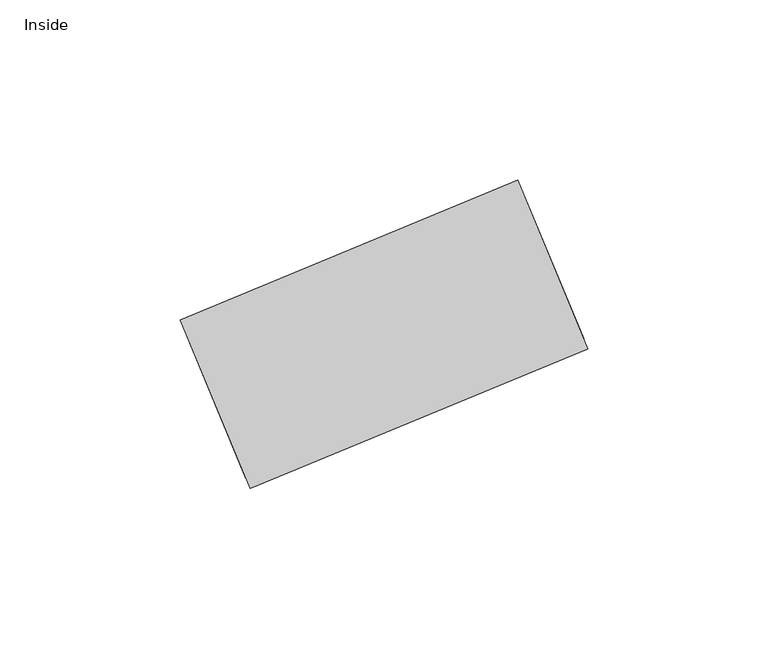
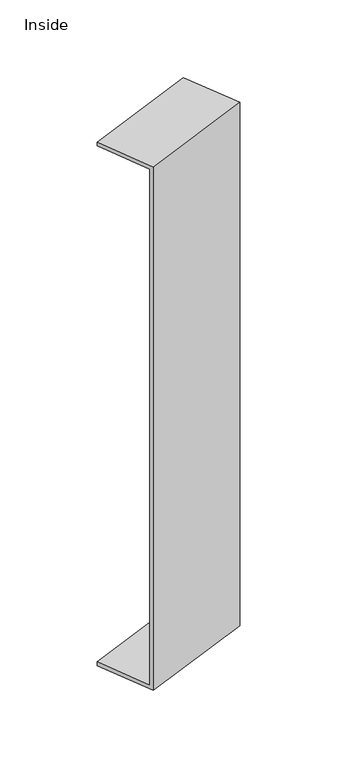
"""IFC4 building model written with IfcOpenShell, lengths in millimetres: cable carrier fitting geometry, Bend-Vertical-Cablofil-Wire_Mesh_Cable_Tray-Cablobend : Inside."""

import ifcopenshell
import ifcopenshell.guid

model = None  # the IFC model being written
_history = None  # IfcOwnerHistory: only IFC2X3 demands one
_inside = {}  # id of a spatial element -> (the spatial element, [elements in it])
_under = {}  # id of a project, library or spatial element -> (it, [spatial elements below it])
_declared = {}  # id of a project -> (the project, [libraries it declares])
_typed = {}  # id of a type object -> (the type object, [elements of that type])
_made_of = {}  # id of a material, layer set ... -> (it, [elements and type objects made of it])


def new_model(schema):
    """Start an empty IFC model of exactly this schema.

    Asked for "IFC4X3", IfcOpenShell would pick the latest addendum, in which some entities
    have other attributes; the version numbers below select the first issue.
    IFC2X3 requires an IfcOwnerHistory on every rooted entity: one is made here for all.
    """
    global model, _history
    if schema == "IFC4X3":
        model = ifcopenshell.file(schema_version=(4, 3, 0, 0))
    else:
        model = ifcopenshell.file(schema=schema)
    _inside.clear()
    _under.clear()
    _declared.clear()
    _typed.clear()
    _made_of.clear()
    _history = None
    if model.schema == "IFC2X3":
        org = make("IfcOrganization", Name="unknown")
        user = make(
            "IfcPersonAndOrganization",
            ThePerson=make("IfcPerson", FamilyName="unknown"),
            TheOrganization=org,
        )
        app = make(
            "IfcApplication",
            ApplicationDeveloper=org,
            Version="unknown",
            ApplicationFullName="unknown",
            ApplicationIdentifier="unknown",
        )
        _history = make(
            "IfcOwnerHistory",
            OwningUser=user,
            OwningApplication=app,
            ChangeAction="ADDED",
            CreationDate=0,
        )
    return model


def make(cls, **values):
    """One entity of the class cls with the attributes given. An attribute that is None is left unset."""
    return model.create_entity(
        cls, **{name: value for name, value in values.items() if value is not None}
    )


def rooted(cls, **values):
    """An entity with a GlobalId (a new one), such as an element, a storey or a relation."""
    return make(cls, GlobalId=ifcopenshell.guid.new(), OwnerHistory=_history, **values)


def si_unit(unit_type, name, prefix=None):
    """IfcSIUnit, for example si_unit("LENGTHUNIT", "METRE", prefix="MILLI")."""
    return make("IfcSIUnit", UnitType=unit_type, Prefix=prefix, Name=name)


def assignment(units):
    """IfcUnitAssignment: the units of a project."""
    return None if units is None else make("IfcUnitAssignment", Units=units)


def point(xyz):
    """IfcCartesianPoint."""
    return None if xyz is None else make("IfcCartesianPoint", Coordinates=xyz)


def direction(xyz):
    """IfcDirection."""
    return None if xyz is None else make("IfcDirection", DirectionRatios=xyz)


def frame(location, z_axis=None, x_axis=None):
    """IfcAxis2Placement3D, a coordinate frame: its origin and axes. An axis left out is left unset."""
    return make(
        "IfcAxis2Placement3D",
        Location=point(location),
        Axis=direction(z_axis),
        RefDirection=direction(x_axis),
    )


def origin():
    """The frame at (0, 0, 0) with its axes left unset."""
    return frame((0.0, 0.0, 0.0))


def place(relative_to, where):
    """IfcLocalPlacement: puts the frame where relative to a parent placement (None: the world)."""
    return make(
        "IfcLocalPlacement", PlacementRelTo=relative_to, RelativePlacement=where
    )


def context(
    kind, dimensions, precision=None, world=None, true_north=None, identifier=None
):
    """IfcGeometricRepresentationContext, for example the 3D "Model" context."""
    return make(
        "IfcGeometricRepresentationContext",
        ContextIdentifier=identifier,
        ContextType=kind,
        CoordinateSpaceDimension=dimensions,
        Precision=precision,
        WorldCoordinateSystem=world,
        TrueNorth=true_north,
    )


def project(units=None, contexts=None):
    """IfcProject with its units and contexts."""
    return rooted(
        "IfcProject",
        Name="project",
        RepresentationContexts=contexts,
        UnitsInContext=assignment(units),
    )


def spatial(cls, under=None, at=None, **own):
    """A site, building, storey or space (cls), placed at a placement, below another one or the project."""
    s = rooted(cls, ObjectPlacement=at, **own)
    if under is not None:
        _under.setdefault(under.id(), (under, []))[1].append(s)
    return s


def polyline(points):
    """IfcPolyline through the points."""
    return make("IfcPolyline", Points=[point(p) for p in points])


def outline(outer, holes=None, kind="AREA"):
    """IfcArbitraryClosedProfileDef: a profile drawn as a closed curve; with holes, ...WithVoids."""
    if holes is None:
        return make("IfcArbitraryClosedProfileDef", ProfileType=kind, OuterCurve=outer)
    return make(
        "IfcArbitraryProfileDefWithVoids",
        ProfileType=kind,
        OuterCurve=outer,
        InnerCurves=holes,
    )


def extrude(swept, where, along, depth):
    """IfcExtrudedAreaSolid: the profile swept, set in the frame where, extruded along a direction by depth."""
    return make(
        "IfcExtrudedAreaSolid",
        SweptArea=swept,
        Position=where,
        ExtrudedDirection=direction(along),
        Depth=depth,
    )


def shape(context_of_items, identifier, shape_type, items):
    """IfcShapeRepresentation: the items that make up one representation, for example the "Body"."""
    return make(
        "IfcShapeRepresentation",
        ContextOfItems=context_of_items,
        RepresentationIdentifier=identifier,
        RepresentationType=shape_type,
        Items=items,
    )


def source(mapping_origin, context_of_items, identifier, shape_type, items):
    """IfcRepresentationMap: a shape defined once, which mapped items show again and again."""
    return make(
        "IfcRepresentationMap",
        MappingOrigin=mapping_origin,
        MappedRepresentation=shape(context_of_items, identifier, shape_type, items),
    )


def transform(
    local_origin,
    x_axis=None,
    y_axis=None,
    z_axis=None,
    scale=None,
    scale2=None,
    scale3=None,
    uniform=True,
):
    """IfcCartesianTransformationOperator3D, or its non-uniform kind. x_axis, y_axis, z_axis: its Axis1, 2, 3."""
    if uniform:
        return make(
            "IfcCartesianTransformationOperator3D",
            Axis1=direction(x_axis),
            Axis2=direction(y_axis),
            LocalOrigin=point(local_origin),
            Scale=scale,
            Axis3=direction(z_axis),
        )
    return make(
        "IfcCartesianTransformationOperator3DnonUniform",
        Axis1=direction(x_axis),
        Axis2=direction(y_axis),
        LocalOrigin=point(local_origin),
        Scale=scale,
        Axis3=direction(z_axis),
        Scale2=scale2,
        Scale3=scale3,
    )


def mapped(mapping_source, mapping_target):
    """IfcMappedItem: shows the shape of a source again, moved by a transform."""
    return make(
        "IfcMappedItem", MappingSource=mapping_source, MappingTarget=mapping_target
    )


def made_of(thing, what):
    """Note that an element or type object is made of a material, layer set ...; save() writes the relation."""
    if what is not None:
        _made_of.setdefault(what.id(), (what, []))[1].append(thing)
    return thing


def element(
    cls,
    number,
    at=None,
    inside=None,
    cuts=None,
    type_object=None,
    material=None,
    context=None,
    identifier="Body",
    shape_type=None,
    held_by="IfcProductDefinitionShape",
    body=None,
    shapes=None,
    **own,
):
    """One element of the class cls, such as IfcWall. Its Tag is "e" and its number.

    at: its placement. inside: the storey or other place that contains it. cuts: it is an
    opening in that element (IfcRelVoidsElement). A single representation is given by context,
    identifier, shape_type and body (its items); several are given by shapes. held_by: the class
    of the entity that holds the representations. save() writes the other relations.
    """
    e = rooted(cls, Tag="e%d" % number, ObjectPlacement=at, **own)
    if body is not None:
        shapes = [shape(context, identifier, shape_type, body)]
    if shapes is not None:
        e.Representation = make(held_by, Representations=shapes)
    if inside is not None:
        _inside.setdefault(inside.id(), (inside, []))[1].append(e)
    if cuts is not None:
        rooted(
            "IfcRelVoidsElement", RelatingBuildingElement=cuts, RelatedOpeningElement=e
        )
    if type_object is not None:
        _typed.setdefault(type_object.id(), (type_object, []))[1].append(e)
    return made_of(e, material)


def aggregate(whole, parts):
    """IfcRelAggregates: a whole, such as a stair, and the parts it consists of."""
    return rooted("IfcRelAggregates", RelatingObject=whole, RelatedObjects=parts)


def save(model, path):
    """Write the relations noted so far, then the file.

    IfcRelAggregates (storeys below a building ...), IfcRelContainedInSpatialStructure (elements
    in a storey), IfcRelDefinesByType, IfcRelAssociatesMaterial and IfcRelDeclares: one each for
    every whole, place, type object, material and project.
    """
    for whole, parts in _under.values():
        aggregate(whole, parts)
    for where, things in _inside.values():
        rooted(
            "IfcRelContainedInSpatialStructure",
            RelatedElements=things,
            RelatingStructure=where,
        )
    for kind, things in _typed.values():
        rooted("IfcRelDefinesByType", RelatedObjects=things, RelatingType=kind)
    for what, things in _made_of.values():
        rooted("IfcRelAssociatesMaterial", RelatedObjects=things, RelatingMaterial=what)
    for by, libraries in _declared.values():
        rooted("IfcRelDeclares", RelatingContext=by, RelatedDefinitions=libraries)
    model.write(path)


def inside_cf2065a4(model_context):
    return source(origin(), model_context, "Body", "SweptSolid", [
        extrude(outline(polyline([(-50.8000001, 0.0), (0.0, 0.0), (0.0, -457.2), (-50.8000001, -457.2), (-50.8000001, -454.025), (-3.1750001, -454.025), (-3.1750001, -3.175), (-50.8000001, -3.175), (-50.8000001, 0.0)])), frame((-46.0662299, -21.5330803, -228.6), z_axis=(0.9238795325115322, 0.3826834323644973, 0.0), x_axis=(0.3826834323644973, -0.9238795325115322, 0.0)), (0.0, 0.0, 1.0), 101.6),
    ])


if __name__ == "__main__":
    model = new_model("IFC4")
    model_context = context("Model", 3, world=origin())
    ifc_project = project(units=[si_unit("LENGTHUNIT", "METRE", prefix="MILLI")], contexts=[model_context])
    site = spatial("IfcSite", under=ifc_project)
    building = spatial("IfcBuilding", under=site)
    placement = place(None, origin())
    inside_shape = inside_cf2065a4(model_context)
    element("IfcCableCarrierFitting", 1, ObjectType="Bend-Vertical-Cablofil-Wire_Mesh_Cable_Tray-Cablobend : Inside", at=placement, inside=building, context=model_context, shape_type="MappedRepresentation", body=[
        mapped(inside_shape, transform((0.0, 0.0, 0.0), x_axis=(1.0, 0.0, 0.0), y_axis=(0.0, 1.0, 0.0), z_axis=(0.0, 0.0, 1.0))),
    ])
    save(model, "model.ifc")
